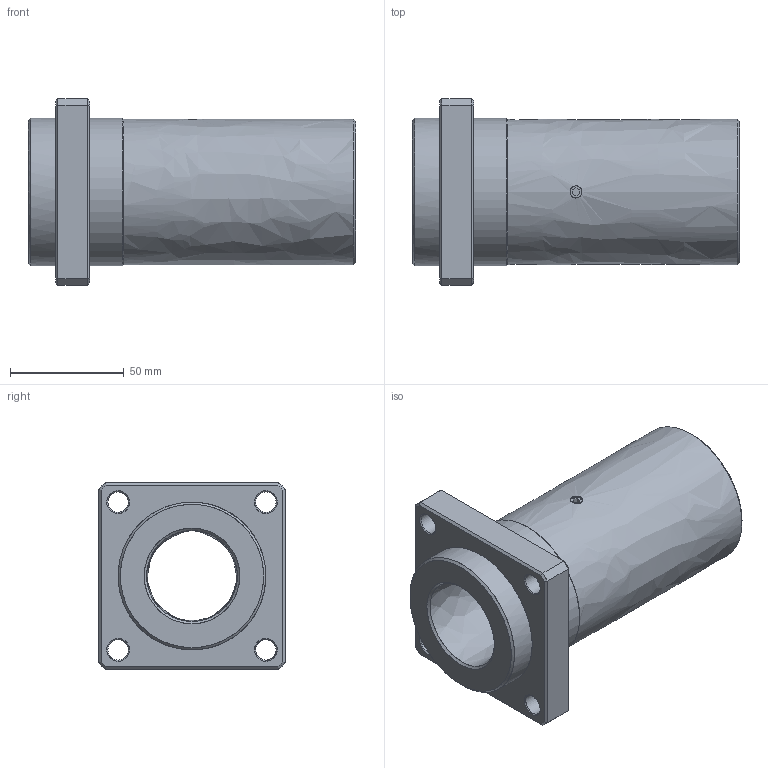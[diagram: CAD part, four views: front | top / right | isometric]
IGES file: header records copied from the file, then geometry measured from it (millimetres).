
Start section: Missler Software 3 rue Hermes, EUROPARC, 31520 Ramonville-Saint-Agne, France Tel   : +33 (0)5 61 00 03 00 Fax   : +33 (0)5 61 00 03 03 Email : sup.solid@topsolid.com
Global section: file name: \\192.168.1.1\share\s-4 技術開発\s-4-4_CAD\s-4-4-3_見直し済み\009 修正済み\LCF-B(済)\LCF-B_TOP\LCF-40BUU.igs; native system: TopSolid v611216 Missler Software; preprocessor: IGES preprocessor v100000; author: yu; organization: コダマコーポレーション株式会社, 10,7,13H22020; date: 220203.165007; units: millimetre
Bounding box: 144 x 82 x 82 mm (x, y, z)
Surface area: 60528.7 mm2 (no closed solid volume)
Topology: 0 solids, 0 shells, 62 faces, 687 edges, 676 vertices
Faces by surface type: bspline 62
